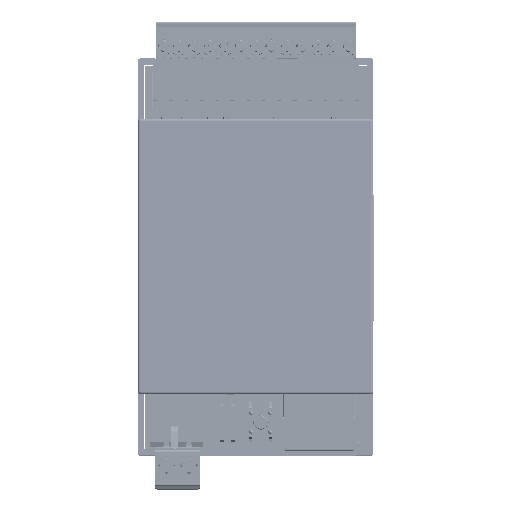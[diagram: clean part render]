
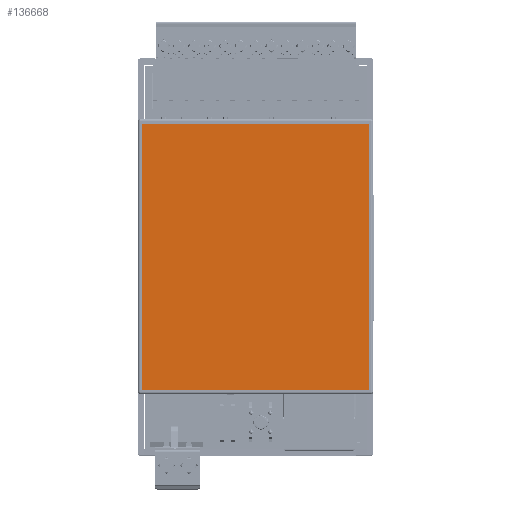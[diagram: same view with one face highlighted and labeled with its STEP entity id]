
A CAD part, top view. The second image highlights one B-rep face of the part: STEP entity #136668.
In plain terms, the highlighted planar face has unit normal (0, 0.002, 1) as drawn and (0, 1, 0) by its records, which use the part's own axes.
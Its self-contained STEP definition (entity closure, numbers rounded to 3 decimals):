
#17767=FACE_OUTER_BOUND('',#25319,.T.);
#25319=EDGE_LOOP('',(#116037,#116038,#116039,#116040));
#38148=LINE('',#248691,#53047);
#38150=LINE('',#248695,#53049);
#38152=LINE('',#248699,#53051);
#38154=LINE('',#248702,#53053);
#53047=VECTOR('',#179001,60.4);
#53049=VECTOR('',#179005,51.29);
#53051=VECTOR('',#179009,60.4);
#53053=VECTOR('',#179013,51.29);
#66071=VERTEX_POINT('',#248688);
#66072=VERTEX_POINT('',#248690);
#66073=VERTEX_POINT('',#248694);
#66074=VERTEX_POINT('',#248698);
#83244=EDGE_CURVE('',#66071,#66072,#38148,.T.);
#83246=EDGE_CURVE('',#66072,#66073,#38150,.T.);
#83248=EDGE_CURVE('',#66073,#66074,#38152,.T.);
#83250=EDGE_CURVE('',#66074,#66071,#38154,.T.);
#116037=ORIENTED_EDGE('',*,*,#83244,.F.);
#116038=ORIENTED_EDGE('',*,*,#83250,.F.);
#116039=ORIENTED_EDGE('',*,*,#83248,.F.);
#116040=ORIENTED_EDGE('',*,*,#83246,.F.);
#129799=PLANE('',#150359);
#136668=ADVANCED_FACE('',(#17767),#129799,.T.);
#150359=AXIS2_PLACEMENT_3D('',#248703,#179014,#179015);
#179001=DIRECTION('',(0.,0.,-1.));
#179005=DIRECTION('',(1.,0.,0.));
#179009=DIRECTION('',(0.,0.,1.));
#179013=DIRECTION('',(-1.,0.,0.));
#179014=DIRECTION('center_axis',(0.,1.,0.));
#179015=DIRECTION('ref_axis',(0.,0.,1.));
#248688=CARTESIAN_POINT('',(-25.645,31.9,30.2));
#248690=CARTESIAN_POINT('',(-25.645,31.9,-30.2));
#248691=CARTESIAN_POINT('',(-25.645,31.9,30.2));
#248694=CARTESIAN_POINT('',(25.645,31.9,-30.2));
#248695=CARTESIAN_POINT('',(-25.645,31.9,-30.2));
#248698=CARTESIAN_POINT('',(25.645,31.9,30.2));
#248699=CARTESIAN_POINT('',(25.645,31.9,-30.2));
#248702=CARTESIAN_POINT('',(25.645,31.9,30.2));
#248703=CARTESIAN_POINT('Origin',(0.,31.9,0.));
